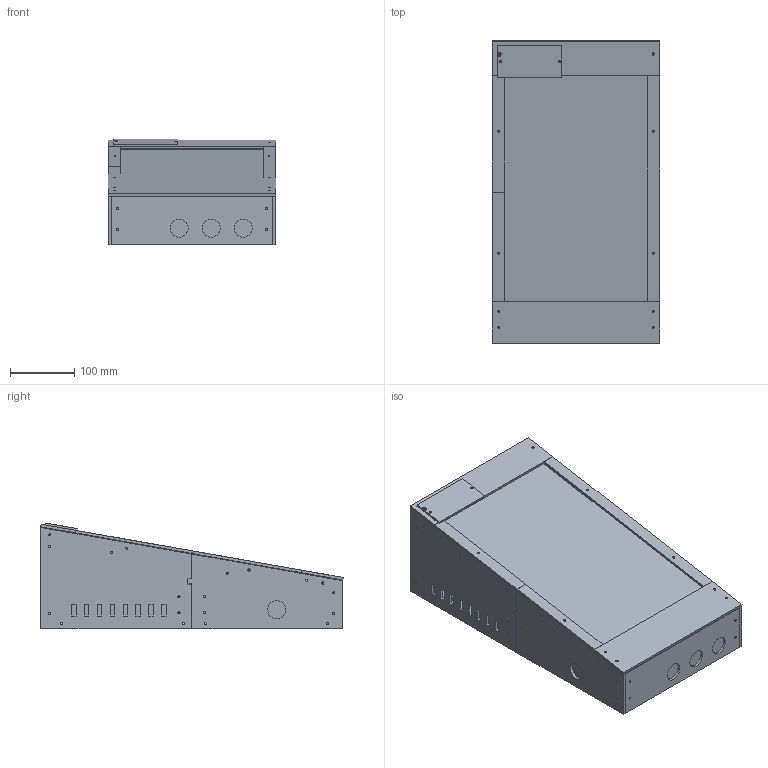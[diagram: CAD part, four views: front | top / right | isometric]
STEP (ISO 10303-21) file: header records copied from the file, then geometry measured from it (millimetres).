
FILE_DESCRIPTION(('Open CASCADE Model'),'2;1');
FILE_NAME('Open CASCADE Shape Model','2026-10-30T01:25:45',('Author'),( 'Open CASCADE'),'Open CASCADE STEP processor 7.8','Open CASCADE 7.8' ,'Unknown');
FILE_SCHEMA(('AUTOMOTIVE_DESIGN { 1 0 10303 214 1 1 1 1 }'));
Length unit declared in the file: millimetre
Products named in the file (56): Mini_VPin_Prototype_V1_2; left_front_wall; left_rear_wall; right_front_wall; right_rear_wall; front_button_panel; rear_vent_panel; corner_left_front_24; corner_left_front_56; corner_left_rear_24; corner_left_rear_128; corner_right_front_24; corner_right_front_56; corner_right_rear_24; corner_right_rear_128; splice_left; splice_right; floor_block_left_28; floor_block_left_218; floor_block_left_252; floor_block_left_442; floor_block_right_28; floor_block_right_218; floor_block_right_252; floor_block_right_442; bottom_front; bottom_rear; top_block_left_25; top_block_left_50; top_block_left_140; top_block_left_330; top_block_left_450; top_block_right_25; top_block_right_50; top_block_right_140; top_block_right_330; top_block_right_450; monitor_saddle_left_180; monitor_saddle_left_360; monitor_saddle_right_180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
Assembly tree (55 placements, depth 2):
  Mini_VPin_Prototype_V1_2
    left_front_wall
    left_rear_wall
    right_front_wall
    right_rear_wall
    front_button_panel
    rear_vent_panel
    corner_left_front_24
    corner_left_front_56
    corner_left_rear_24
    corner_left_rear_128
    corner_right_front_24
    corner_right_front_56
    corner_right_rear_24
    corner_right_rear_128
    splice_left
    splice_right
    floor_block_left_28
    floor_block_left_218
    floor_block_left_252
    floor_block_left_442
    floor_block_right_28
    floor_block_right_218
    floor_block_right_252
    floor_block_right_442
    bottom_front
    bottom_rear
    top_block_left_25
    top_block_left_50
    top_block_left_140
    top_block_left_330
    top_block_left_450
    top_block_right_25
    top_block_right_50
    top_block_right_140
    top_block_right_330
    top_block_right_450
    monitor_saddle_left_180
    monitor_saddle_left_360
    monitor_saddle_right_180
    monitor_saddle_right_360
    bezel_left_front
    bezel_left_rear
    bezel_right_a1_a2
    front_cable_lid
    rear_control_deck
    control_hatch
    REFERENCE_monitor_12mm_envelope
    REFERENCE_PC_allowance_ports_face_front
    REFERENCE_0_front_button_110
    REFERENCE_1_front_button_160
    REFERENCE_2_front_button_210
    REFERENCE_3_left_flipper
    REFERENCE_4_right_flipper
    REFERENCE_5_central_folded_cover_reserve
    REFERENCE_6_USB_encoder_allowance
Bounding box: 260 x 470.69 x 164.59 mm (x, y, z)
Volume: 6493319.8 mm3; surface area: 1288256.6 mm2
Topology: 55 solids, 55 shells, 795 faces, 2013 edges, 1342 vertices
Faces by surface type: plane 657, cylinder 138
Full cylindrical faces by diameter (mm): 3.4 x132, 28 x5
Entity records: 51662 total; most frequent: CARTESIAN_POINT 9322, DIRECTION 7378, LINE 4829, VECTOR 4829, ORIENTED_EDGE 4026, PCURVE 4026, DEFINITIONAL_REPRESENTATION 4026, EDGE_CURVE 2013
